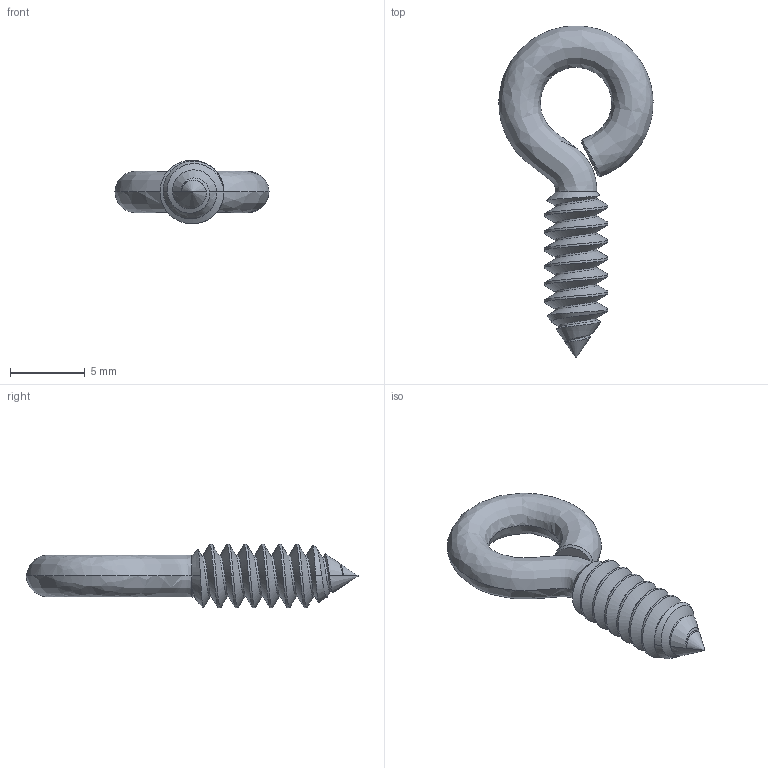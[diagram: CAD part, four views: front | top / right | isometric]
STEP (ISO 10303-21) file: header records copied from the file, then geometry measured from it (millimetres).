
FILE_DESCRIPTION (( 'STEP AP203' ), '1' );
FILE_NAME ('9496T33_Routing Eyebolt for Wood - Not for Lifting.STEP', '2023-03-31T19:25:31', ( 'Administrator' ), ( 'Managed by Terraform' ), 'SwSTEP 2.0', 'SolidWorks 2017', '' );
FILE_SCHEMA (( 'CONFIG_CONTROL_DESIGN' ));
Length unit declared in the file: inch
Products named in the file (1): 9496T33_Routing Eyebolt for Wood - Not for Lifting
Bounding box: 10.31 x 22.22 x 4.28 mm (x, y, z)
Volume: 236.6 mm3; surface area: 397.2 mm2
Topology: 1 solids, 1 shells, 37 faces, 93 edges, 58 vertices
Faces by surface type: cylinder 14, bspline 10, cone 7, plane 6
Entity records: 7013 total; most frequent: CARTESIAN_POINT 6226, ORIENTED_EDGE 186, DIRECTION 99, EDGE_CURVE 93, VERTEX_POINT 58, AXIS2_PLACEMENT_3D 40, FACE_OUTER_BOUND 37, EDGE_LOOP 37
